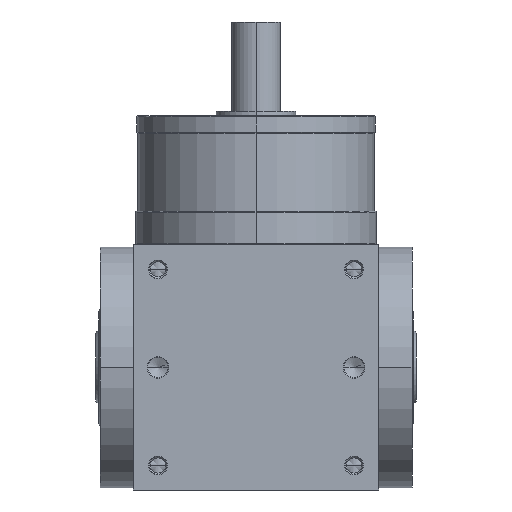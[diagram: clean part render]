
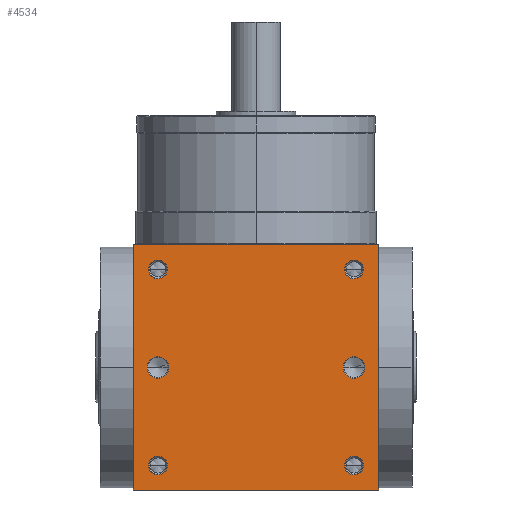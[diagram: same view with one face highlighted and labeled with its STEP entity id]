
A CAD part, front view. The second image highlights one B-rep face of the part: STEP entity #4534.
In plain terms, the highlighted planar face has unit normal (0, -1, 0).
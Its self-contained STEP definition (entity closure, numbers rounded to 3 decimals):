
#5=DIRECTION('',(1.,0.,0.));
#6=VECTOR('',#5,110.);
#7=CARTESIAN_POINT('',(-55.,-55.,-55.));
#8=LINE('',#7,#6);
#155=DIRECTION('',(0.,0.,1.));
#156=VECTOR('',#155,110.);
#157=CARTESIAN_POINT('',(55.,-55.,-55.));
#158=LINE('',#157,#156);
#209=DIRECTION('',(0.,0.,1.));
#210=VECTOR('',#209,110.);
#211=CARTESIAN_POINT('',(-55.,-55.,-55.));
#212=LINE('',#211,#210);
#213=CARTESIAN_POINT('',(44.,-55.,44.));
#214=DIRECTION('',(0.,1.,0.));
#215=DIRECTION('',(-1.,0.,0.));
#216=AXIS2_PLACEMENT_3D('',#213,#214,#215);
#218=CARTESIAN_POINT('',(44.,-55.,44.));
#219=DIRECTION('',(0.,1.,0.));
#220=DIRECTION('',(1.,0.,0.));
#221=AXIS2_PLACEMENT_3D('',#218,#219,#220);
#223=CARTESIAN_POINT('',(-44.,-55.,44.));
#224=DIRECTION('',(0.,1.,0.));
#225=DIRECTION('',(-1.,0.,0.));
#226=AXIS2_PLACEMENT_3D('',#223,#224,#225);
#228=CARTESIAN_POINT('',(-44.,-55.,44.));
#229=DIRECTION('',(0.,1.,0.));
#230=DIRECTION('',(1.,0.,0.));
#231=AXIS2_PLACEMENT_3D('',#228,#229,#230);
#233=CARTESIAN_POINT('',(44.,-55.,-44.));
#234=DIRECTION('',(0.,1.,0.));
#235=DIRECTION('',(-1.,0.,0.));
#236=AXIS2_PLACEMENT_3D('',#233,#234,#235);
#238=CARTESIAN_POINT('',(44.,-55.,-44.));
#239=DIRECTION('',(0.,1.,0.));
#240=DIRECTION('',(1.,0.,0.));
#241=AXIS2_PLACEMENT_3D('',#238,#239,#240);
#243=CARTESIAN_POINT('',(-44.,-55.,-44.));
#244=DIRECTION('',(0.,1.,0.));
#245=DIRECTION('',(-1.,0.,0.));
#246=AXIS2_PLACEMENT_3D('',#243,#244,#245);
#248=CARTESIAN_POINT('',(-44.,-55.,-44.));
#249=DIRECTION('',(0.,1.,0.));
#250=DIRECTION('',(1.,0.,0.));
#251=AXIS2_PLACEMENT_3D('',#248,#249,#250);
#253=CARTESIAN_POINT('',(-44.,-55.,0.));
#254=DIRECTION('',(0.,1.,0.));
#255=DIRECTION('',(1.,0.,0.));
#256=AXIS2_PLACEMENT_3D('',#253,#254,#255);
#258=CARTESIAN_POINT('',(-44.,-55.,0.));
#259=DIRECTION('',(0.,1.,0.));
#260=DIRECTION('',(-1.,0.,0.));
#261=AXIS2_PLACEMENT_3D('',#258,#259,#260);
#263=CARTESIAN_POINT('',(44.,-55.,0.));
#264=DIRECTION('',(0.,1.,0.));
#265=DIRECTION('',(1.,0.,0.));
#266=AXIS2_PLACEMENT_3D('',#263,#264,#265);
#268=CARTESIAN_POINT('',(44.,-55.,0.));
#269=DIRECTION('',(0.,1.,0.));
#270=DIRECTION('',(-1.,0.,0.));
#271=AXIS2_PLACEMENT_3D('',#268,#269,#270);
#285=DIRECTION('',(1.,0.,0.));
#286=VECTOR('',#285,110.);
#287=CARTESIAN_POINT('',(-55.,-55.,55.));
#288=LINE('',#287,#286);
#3652=CARTESIAN_POINT('',(-55.,-55.,-55.));
#3654=VERTEX_POINT('',#3652);
#3655=CARTESIAN_POINT('',(55.,-55.,-55.));
#3656=VERTEX_POINT('',#3655);
#3660=CARTESIAN_POINT('',(-55.,-55.,55.));
#3662=VERTEX_POINT('',#3660);
#3663=CARTESIAN_POINT('',(55.,-55.,55.));
#3664=VERTEX_POINT('',#3663);
#3819=CARTESIAN_POINT('',(39.8,-55.,44.));
#3820=CARTESIAN_POINT('',(48.2,-55.,44.));
#3821=VERTEX_POINT('',#3819);
#3822=VERTEX_POINT('',#3820);
#3827=CARTESIAN_POINT('',(-48.2,-55.,44.));
#3828=CARTESIAN_POINT('',(-39.8,-55.,44.));
#3829=VERTEX_POINT('',#3827);
#3830=VERTEX_POINT('',#3828);
#3835=CARTESIAN_POINT('',(39.8,-55.,-44.));
#3836=CARTESIAN_POINT('',(48.2,-55.,-44.));
#3837=VERTEX_POINT('',#3835);
#3838=VERTEX_POINT('',#3836);
#3843=CARTESIAN_POINT('',(-48.2,-55.,-44.));
#3844=CARTESIAN_POINT('',(-39.8,-55.,-44.));
#3845=VERTEX_POINT('',#3843);
#3846=VERTEX_POINT('',#3844);
#4167=CARTESIAN_POINT('',(-39.15,-55.,0.));
#4168=CARTESIAN_POINT('',(-48.85,-55.,0.));
#4169=VERTEX_POINT('',#4167);
#4170=VERTEX_POINT('',#4168);
#4175=CARTESIAN_POINT('',(48.85,-55.,0.));
#4176=CARTESIAN_POINT('',(39.15,-55.,0.));
#4177=VERTEX_POINT('',#4175);
#4178=VERTEX_POINT('',#4176);
#4486=CARTESIAN_POINT('',(-55.,-55.,-55.));
#4487=DIRECTION('',(0.,-1.,0.));
#4488=DIRECTION('',(1.,0.,0.));
#4489=AXIS2_PLACEMENT_3D('',#4486,#4487,#4488);
#4490=PLANE('',#4489);
#4491=ORIENTED_EDGE('',*,*,#4326,.F.);
#4492=ORIENTED_EDGE('',*,*,#4369,.T.);
#4494=ORIENTED_EDGE('',*,*,#4493,.T.);
#4495=ORIENTED_EDGE('',*,*,#4448,.F.);
#4496=EDGE_LOOP('',(#4491,#4492,#4494,#4495));
#4497=FACE_OUTER_BOUND('',#4496,.F.);
#4499=ORIENTED_EDGE('',*,*,#4498,.F.);
#4501=ORIENTED_EDGE('',*,*,#4500,.F.);
#4502=EDGE_LOOP('',(#4499,#4501));
#4503=FACE_BOUND('',#4502,.F.);
#4505=ORIENTED_EDGE('',*,*,#4504,.F.);
#4507=ORIENTED_EDGE('',*,*,#4506,.F.);
#4508=EDGE_LOOP('',(#4505,#4507));
#4509=FACE_BOUND('',#4508,.F.);
#4511=ORIENTED_EDGE('',*,*,#4510,.F.);
#4513=ORIENTED_EDGE('',*,*,#4512,.F.);
#4514=EDGE_LOOP('',(#4511,#4513));
#4515=FACE_BOUND('',#4514,.F.);
#4517=ORIENTED_EDGE('',*,*,#4516,.F.);
#4519=ORIENTED_EDGE('',*,*,#4518,.F.);
#4520=EDGE_LOOP('',(#4517,#4519));
#4521=FACE_BOUND('',#4520,.F.);
#4523=ORIENTED_EDGE('',*,*,#4522,.F.);
#4525=ORIENTED_EDGE('',*,*,#4524,.F.);
#4526=EDGE_LOOP('',(#4523,#4525));
#4527=FACE_BOUND('',#4526,.F.);
#4529=ORIENTED_EDGE('',*,*,#4528,.F.);
#4531=ORIENTED_EDGE('',*,*,#4530,.F.);
#4532=EDGE_LOOP('',(#4529,#4531));
#4533=FACE_BOUND('',#4532,.F.);
#4534=ADVANCED_FACE('',(#4497,#4503,#4509,#4515,#4521,#4527,#4533),#4490,.T.);
#217=CIRCLE('',#216,4.2);
#222=CIRCLE('',#221,4.2);
#227=CIRCLE('',#226,4.2);
#232=CIRCLE('',#231,4.2);
#237=CIRCLE('',#236,4.2);
#242=CIRCLE('',#241,4.2);
#247=CIRCLE('',#246,4.2);
#252=CIRCLE('',#251,4.2);
#257=CIRCLE('',#256,4.85);
#262=CIRCLE('',#261,4.85);
#267=CIRCLE('',#266,4.85);
#272=CIRCLE('',#271,4.85);
#4326=EDGE_CURVE('',#3654,#3656,#8,.T.);
#4369=EDGE_CURVE('',#3654,#3662,#212,.T.);
#4448=EDGE_CURVE('',#3656,#3664,#158,.T.);
#4493=EDGE_CURVE('',#3662,#3664,#288,.T.);
#4498=EDGE_CURVE('',#3821,#3822,#217,.T.);
#4500=EDGE_CURVE('',#3822,#3821,#222,.T.);
#4504=EDGE_CURVE('',#3829,#3830,#227,.T.);
#4506=EDGE_CURVE('',#3830,#3829,#232,.T.);
#4510=EDGE_CURVE('',#3837,#3838,#237,.T.);
#4512=EDGE_CURVE('',#3838,#3837,#242,.T.);
#4516=EDGE_CURVE('',#3845,#3846,#247,.T.);
#4518=EDGE_CURVE('',#3846,#3845,#252,.T.);
#4522=EDGE_CURVE('',#4169,#4170,#257,.T.);
#4524=EDGE_CURVE('',#4170,#4169,#262,.T.);
#4528=EDGE_CURVE('',#4177,#4178,#267,.T.);
#4530=EDGE_CURVE('',#4178,#4177,#272,.T.);
